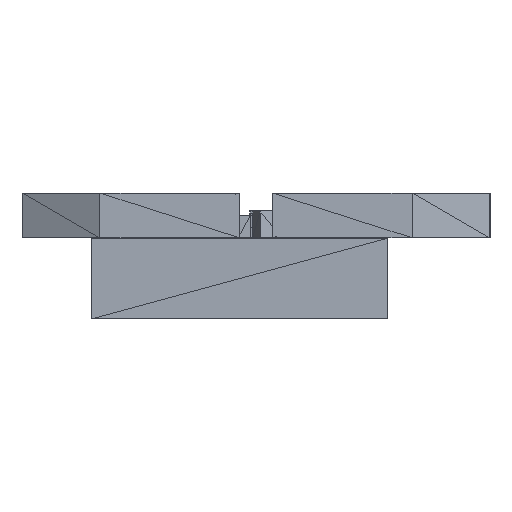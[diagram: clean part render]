
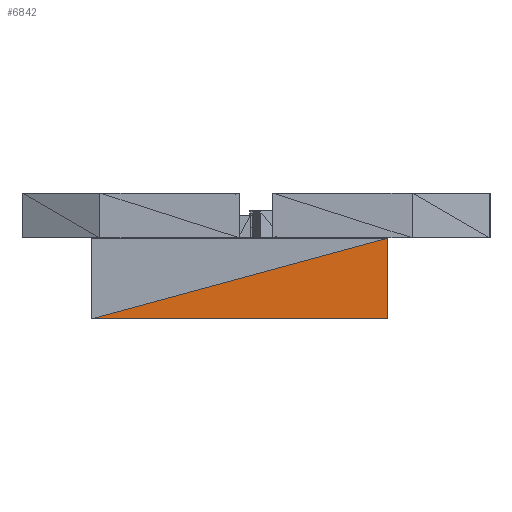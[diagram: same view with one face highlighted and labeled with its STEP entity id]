
A CAD part, front view. The second image highlights one B-rep face of the part: STEP entity #6842.
In plain terms, the highlighted planar face has unit normal (0, -1, 0).
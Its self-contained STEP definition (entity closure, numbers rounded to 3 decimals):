
#1800 = VERTEX_POINT('',#1801);
#1801 = CARTESIAN_POINT('',(-69.229,-360.598,
    -40.495));
#1810 = PLANE('',#1811);
#1811 = AXIS2_PLACEMENT_3D('',#1812,#1813,#1814);
#1812 = CARTESIAN_POINT('',(-69.229,-360.598,
    -40.495));
#1813 = DIRECTION('',(0.,0.,1.));
#1814 = DIRECTION('',(1.,0.,0.));
#1834 = VERTEX_POINT('',#1835);
#1835 = CARTESIAN_POINT('',(-36.196,-360.598,
    -40.495));
#1860 = EDGE_CURVE('',#1834,#1800,#1861,.T.);
#1861 = SURFACE_CURVE('',#1862,(#1866,#1873),.PCURVE_S1.);
#1862 = LINE('',#1863,#1864);
#1863 = CARTESIAN_POINT('',(-36.196,-360.598,
    -40.495));
#1864 = VECTOR('',#1865,1.);
#1865 = DIRECTION('',(-1.,0.,0.));
#1866 = PCURVE('',#1810,#1867);
#1867 = DEFINITIONAL_REPRESENTATION('',(#1868),#1872);
#1868 = LINE('',#1869,#1870);
#1869 = CARTESIAN_POINT('',(33.033,0.));
#1870 = VECTOR('',#1871,1.);
#1871 = DIRECTION('',(-1.,0.));
#1872 = ( GEOMETRIC_REPRESENTATION_CONTEXT(2) 
PARAMETRIC_REPRESENTATION_CONTEXT() REPRESENTATION_CONTEXT('2D SPACE',''
  ) );
#1873 = PCURVE('',#1874,#1879);
#1874 = PLANE('',#1875);
#1875 = AXIS2_PLACEMENT_3D('',#1876,#1877,#1878);
#1876 = CARTESIAN_POINT('',(-36.196,-360.598,
    -31.486));
#1877 = DIRECTION('',(0.,1.,0.));
#1878 = DIRECTION('',(0.,0.,1.));
#1879 = DEFINITIONAL_REPRESENTATION('',(#1880),#1883);
#1880 = B_SPLINE_CURVE_WITH_KNOTS('',1,(#1881,#1882),.UNSPECIFIED.,.F.,
  .F.,(2,2),(0.,33.033),.PIECEWISE_BEZIER_KNOTS.);
#1881 = CARTESIAN_POINT('',(-9.009,0.));
#1882 = CARTESIAN_POINT('',(-9.009,-33.033));
#1883 = ( GEOMETRIC_REPRESENTATION_CONTEXT(2) 
PARAMETRIC_REPRESENTATION_CONTEXT() REPRESENTATION_CONTEXT('2D SPACE',''
  ) );
#2043 = PLANE('',#2044);
#2044 = AXIS2_PLACEMENT_3D('',#2045,#2046,#2047);
#2045 = CARTESIAN_POINT('',(-69.229,-360.598,
    -40.495));
#2046 = DIRECTION('',(0.,1.,0.));
#2047 = DIRECTION('',(0.,0.,1.));
#2728 = VERTEX_POINT('',#2729);
#2729 = CARTESIAN_POINT('',(-36.196,-360.598,
    -31.486));
#6372 = PLANE('',#6373);
#6373 = AXIS2_PLACEMENT_3D('',#6374,#6375,#6376);
#6374 = CARTESIAN_POINT('',(-36.196,-344.582,
    -40.495));
#6375 = DIRECTION('',(-1.,0.,0.));
#6376 = DIRECTION('',(0.,0.,-1.));
#6389 = EDGE_CURVE('',#2728,#1834,#6390,.T.);
#6390 = SURFACE_CURVE('',#6391,(#6395,#6402),.PCURVE_S1.);
#6391 = LINE('',#6392,#6393);
#6392 = CARTESIAN_POINT('',(-36.196,-360.598,
    -31.486));
#6393 = VECTOR('',#6394,1.);
#6394 = DIRECTION('',(0.,0.,-1.));
#6395 = PCURVE('',#6372,#6396);
#6396 = DEFINITIONAL_REPRESENTATION('',(#6397),#6401);
#6397 = LINE('',#6398,#6399);
#6398 = CARTESIAN_POINT('',(-9.009,16.016));
#6399 = VECTOR('',#6400,1.);
#6400 = DIRECTION('',(1.,0.));
#6401 = ( GEOMETRIC_REPRESENTATION_CONTEXT(2) 
PARAMETRIC_REPRESENTATION_CONTEXT() REPRESENTATION_CONTEXT('2D SPACE',''
  ) );
#6402 = PCURVE('',#1874,#6403);
#6403 = DEFINITIONAL_REPRESENTATION('',(#6404),#6407);
#6404 = B_SPLINE_CURVE_WITH_KNOTS('',1,(#6405,#6406),.UNSPECIFIED.,.F.,
  .F.,(2,2),(0.,9.009),.PIECEWISE_BEZIER_KNOTS.);
#6405 = CARTESIAN_POINT('',(0.,0.));
#6406 = CARTESIAN_POINT('',(-9.009,0.));
#6407 = ( GEOMETRIC_REPRESENTATION_CONTEXT(2) 
PARAMETRIC_REPRESENTATION_CONTEXT() REPRESENTATION_CONTEXT('2D SPACE',''
  ) );
#6821 = EDGE_CURVE('',#1800,#2728,#6822,.T.);
#6822 = SURFACE_CURVE('',#6823,(#6827,#6834),.PCURVE_S1.);
#6823 = LINE('',#6824,#6825);
#6824 = CARTESIAN_POINT('',(-69.229,-360.598,
    -40.495));
#6825 = VECTOR('',#6826,1.);
#6826 = DIRECTION('',(0.965,0.,0.263));
#6827 = PCURVE('',#2043,#6828);
#6828 = DEFINITIONAL_REPRESENTATION('',(#6829),#6833);
#6829 = LINE('',#6830,#6831);
#6830 = CARTESIAN_POINT('',(0.,0.));
#6831 = VECTOR('',#6832,1.);
#6832 = DIRECTION('',(0.263,0.965));
#6833 = ( GEOMETRIC_REPRESENTATION_CONTEXT(2) 
PARAMETRIC_REPRESENTATION_CONTEXT() REPRESENTATION_CONTEXT('2D SPACE',''
  ) );
#6834 = PCURVE('',#1874,#6835);
#6835 = DEFINITIONAL_REPRESENTATION('',(#6836),#6839);
#6836 = B_SPLINE_CURVE_WITH_KNOTS('',1,(#6837,#6838),.UNSPECIFIED.,.F.,
  .F.,(2,2),(0.,34.239),.PIECEWISE_BEZIER_KNOTS.);
#6837 = CARTESIAN_POINT('',(-9.009,-33.033));
#6838 = CARTESIAN_POINT('',(0.,0.));
#6839 = ( GEOMETRIC_REPRESENTATION_CONTEXT(2) 
PARAMETRIC_REPRESENTATION_CONTEXT() REPRESENTATION_CONTEXT('2D SPACE',''
  ) );
#6842 = ADVANCED_FACE('',(#6843),#1874,.F.);
#6843 = FACE_BOUND('',#6844,.T.);
#6844 = EDGE_LOOP('',(#6845,#6846,#6847));
#6845 = ORIENTED_EDGE('',*,*,#6821,.F.);
#6846 = ORIENTED_EDGE('',*,*,#1860,.F.);
#6847 = ORIENTED_EDGE('',*,*,#6389,.F.);
